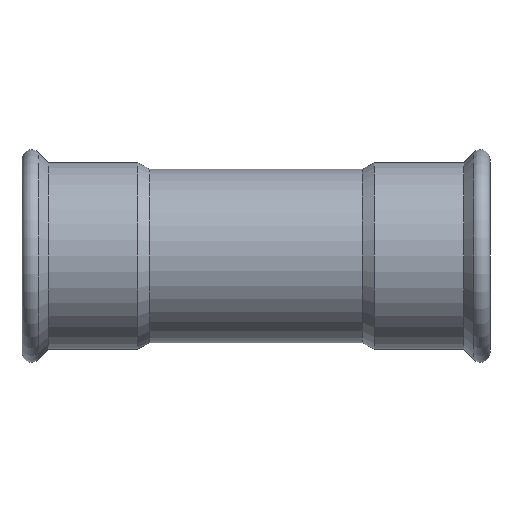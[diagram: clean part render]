
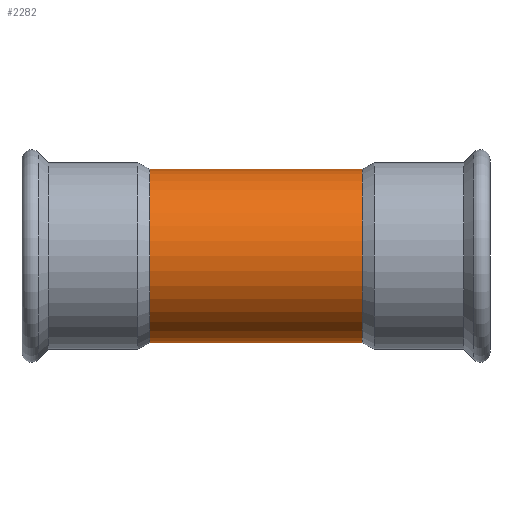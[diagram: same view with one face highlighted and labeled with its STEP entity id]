
A CAD part, front view. The second image highlights one B-rep face of the part: STEP entity #2282.
In plain terms, the highlighted cylindrical face has radius 26.7 mm (diameter 53.4 mm), a partial arc.
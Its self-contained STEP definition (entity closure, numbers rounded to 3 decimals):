
#108 = CARTESIAN_POINT ( 'NONE',  ( -32.626, 0., -26.7 ) ) ;
#256 = DIRECTION ( 'NONE',  ( -1., 0., 0. ) ) ;
#317 = DIRECTION ( 'NONE',  ( -1., 0., 0. ) ) ;
#344 = CARTESIAN_POINT ( 'NONE',  ( 0., 0., 26.7 ) ) ;
#354 = CARTESIAN_POINT ( 'NONE',  ( 32.626, 0., 26.7 ) ) ;
#430 = CIRCLE ( 'NONE', #868, 26.7 ) ;
#656 = ORIENTED_EDGE ( 'NONE', *, *, #4713, .T. ) ;
#703 = CARTESIAN_POINT ( 'NONE',  ( 0., 0., -26.7 ) ) ;
#760 = CARTESIAN_POINT ( 'NONE',  ( 32.626, 0., 0. ) ) ;
#791 = EDGE_CURVE ( 'NONE', #798, #4969, #2845, .T. ) ;
#798 = VERTEX_POINT ( 'NONE', #108 ) ;
#868 = AXIS2_PLACEMENT_3D ( 'NONE', #760, #2285, #3934 ) ;
#1043 = EDGE_CURVE ( 'NONE', #6005, #4969, #5073, .T. ) ;
#1850 = ORIENTED_EDGE ( 'NONE', *, *, #1043, .T. ) ;
#2112 = VECTOR ( 'NONE', #2555, 1000. ) ;
#2282 = ADVANCED_FACE ( 'NONE', ( #6542 ), #5384, .T. ) ;
#2284 = AXIS2_PLACEMENT_3D ( 'NONE', #3235, #3691, #3197 ) ;
#2285 = DIRECTION ( 'NONE',  ( -1., 0., 0. ) ) ;
#2292 = LINE ( 'NONE', #703, #4795 ) ;
#2391 = DIRECTION ( 'NONE',  ( 0., 0., 1. ) ) ;
#2555 = DIRECTION ( 'NONE',  ( -1., 0., 0. ) ) ;
#2845 = CIRCLE ( 'NONE', #2284, 26.7 ) ;
#2959 = CARTESIAN_POINT ( 'NONE',  ( 0., 0., 0. ) ) ;
#3197 = DIRECTION ( 'NONE',  ( 0., 0., 1. ) ) ;
#3235 = CARTESIAN_POINT ( 'NONE',  ( -32.626, 0., 0. ) ) ;
#3691 = DIRECTION ( 'NONE',  ( -1., 0., 0. ) ) ;
#3934 = DIRECTION ( 'NONE',  ( 0., 0., 1. ) ) ;
#3983 = ORIENTED_EDGE ( 'NONE', *, *, #791, .F. ) ;
#4207 = EDGE_CURVE ( 'NONE', #4558, #798, #2292, .T. ) ;
#4280 = AXIS2_PLACEMENT_3D ( 'NONE', #2959, #256, #2391 ) ;
#4541 = EDGE_LOOP ( 'NONE', ( #6560, #656, #1850, #3983 ) ) ;
#4558 = VERTEX_POINT ( 'NONE', #4737 ) ;
#4713 = EDGE_CURVE ( 'NONE', #4558, #6005, #430, .T. ) ;
#4737 = CARTESIAN_POINT ( 'NONE',  ( 32.626, 0., -26.7 ) ) ;
#4795 = VECTOR ( 'NONE', #317, 1000. ) ;
#4969 = VERTEX_POINT ( 'NONE', #5733 ) ;
#5073 = LINE ( 'NONE', #344, #2112 ) ;
#5384 = CYLINDRICAL_SURFACE ( 'NONE', #4280, 26.7 ) ;
#5733 = CARTESIAN_POINT ( 'NONE',  ( -32.626, 0., 26.7 ) ) ;
#6005 = VERTEX_POINT ( 'NONE', #354 ) ;
#6542 = FACE_OUTER_BOUND ( 'NONE', #4541, .T. ) ;
#6560 = ORIENTED_EDGE ( 'NONE', *, *, #4207, .F. ) ;
